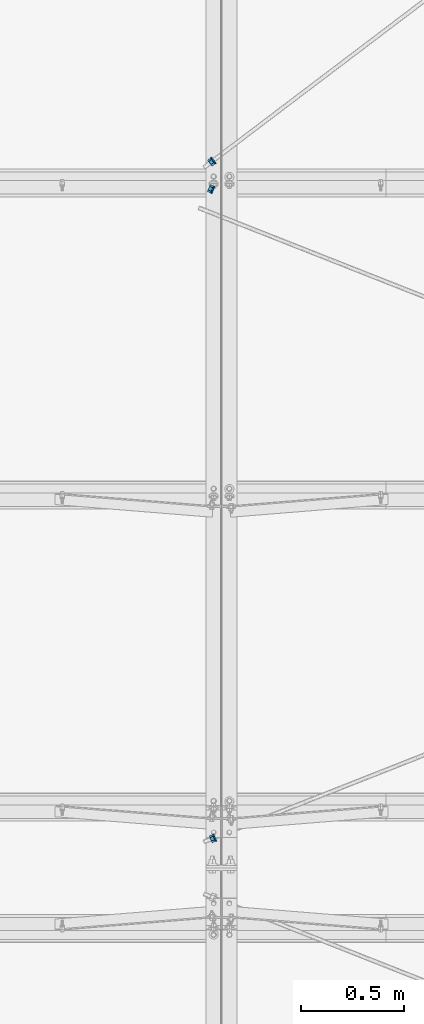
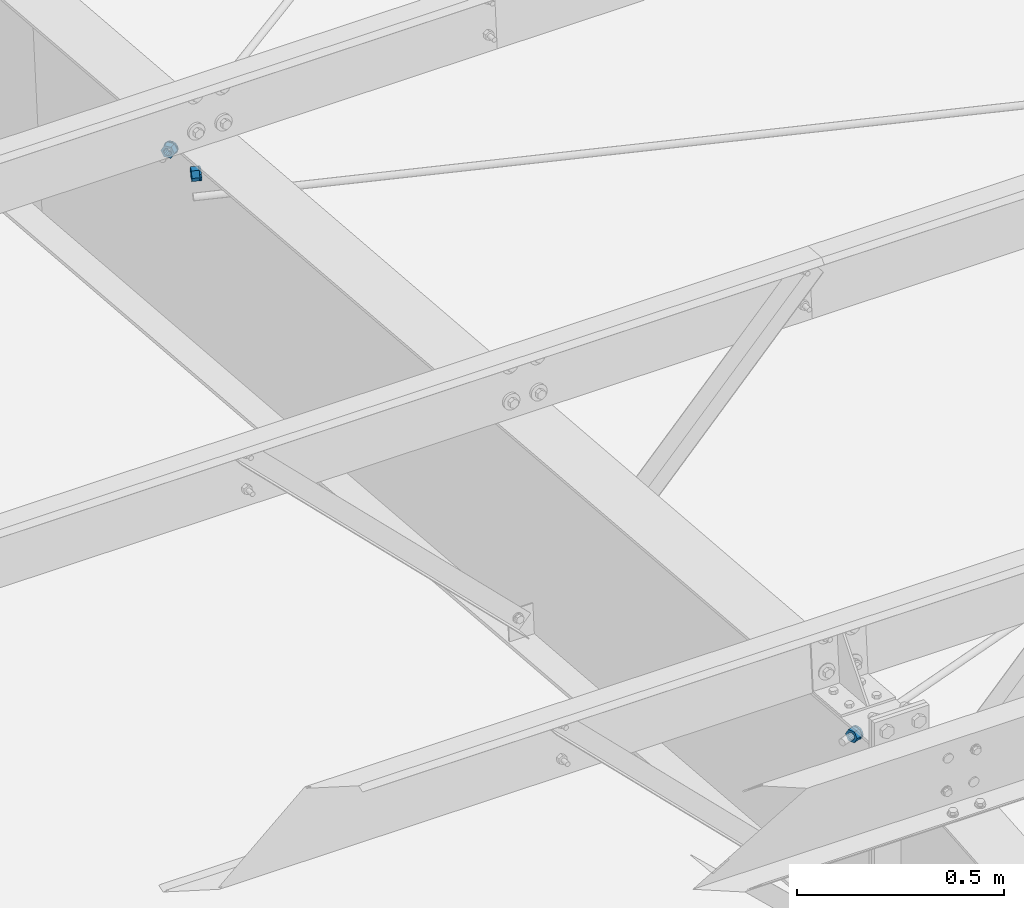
# One storey, part 40 of 185: 6 beams, 6 elements without a shape of their own.
"""IFC2X3 building model written with IfcOpenShell, lengths in millimetres."""

from ifc_helpers import new_model, si_unit, frame, origin_with_axes, place, context, subcontext, project, spatial, polyline, outline, extrude, material, type_object, element, aggregate, save


model = new_model("IFC2X3")

# Units and contexts
model_context = context("Model", 3, precision=1e-05, world=origin_with_axes())
body_context = subcontext(model_context, "Body", "Model", "MODEL_VIEW")
ifc_project = project(units=[si_unit("LENGTHUNIT", "METRE", prefix="MILLI"), si_unit("AREAUNIT", "SQUARE_METRE"), si_unit("VOLUMEUNIT", "CUBIC_METRE"), si_unit("MASSUNIT", "GRAM", prefix="KILO"), si_unit("TIMEUNIT", "SECOND"), si_unit("PLANEANGLEUNIT", "RADIAN"), si_unit("SOLIDANGLEUNIT", "STERADIAN"), si_unit("THERMODYNAMICTEMPERATUREUNIT", "DEGREE_CELSIUS"), si_unit("LUMINOUSINTENSITYUNIT", "LUMEN")], contexts=[model_context])

# Site, building, storey
site_placement = place(None, origin_with_axes())
site = spatial("IfcSite", under=ifc_project, at=site_placement, Name="Undefined", CompositionType="ELEMENT")
building_placement = place(site_placement, origin_with_axes())
building = spatial("IfcBuilding", under=site, at=building_placement, Name="Undefined", CompositionType="ELEMENT")
storey_placement = place(building_placement, origin_with_axes())
storey = spatial("IfcBuildingStorey", under=building, at=storey_placement, Name="Undefined", CompositionType="ELEMENT", Elevation=0.0)

# Assembly, beam
assembly_1_placement = place(storey_placement, origin_with_axes())
assembly_1 = element("IfcElementAssembly", 1, at=assembly_1_placement, inside=storey, Name="Steel Assembly", AssemblyPlace="NOTDEFINED", PredefinedType="RIGID_FRAME")
ifc_material = material(Name="STEEL/55")
beam_type_1 = type_object("IfcBeamType", Name="3/4_HEAVY_HEX_NUT", PredefinedType="NOTDEFINED")
beam_1_placement = place(assembly_1_placement, frame((30054.9248664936, 19301.4769855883, 6891.68541322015), z_axis=(0.0293344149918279, -0.0113831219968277, -0.999504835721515), x_axis=(-0.925462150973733, 0.377531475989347, -0.0314609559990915)))
beam_1 = element("IfcBeam", 2, at=beam_1_placement, type_object=beam_type_1, material=ifc_material, Name="3/4 H HEX NUT A563", ObjectType="3/4_HEAVY_HEX_NUT", context=body_context, shape_type="SweptSolid", body=[
    extrude(outline(polyline([(9.13000011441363, -15.810000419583), (-9.13000011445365, -15.810000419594), (-18.2600002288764, 1.54614099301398e-11), (-9.13000011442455, 15.8100004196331), (9.13000011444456, 15.8100004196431), (18.2600002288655, 3.36513039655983e-11), (9.13000011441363, -15.810000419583)]), holes=[polyline([(-8.06850066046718, 6.43441456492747), (-10.061255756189, 2.29641597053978), (-10.0612557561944, -2.29641597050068), (-8.06850066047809, -6.43441456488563), (-4.47768005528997, -9.29799844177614), (-1.09139364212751e-11, -10.3199996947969), (4.47768005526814, -9.29799844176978), (8.0685006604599, -6.43441456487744), (10.0612557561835, -2.29641597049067), (10.0612557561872, 2.2964159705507), (8.06850066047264, 6.43441456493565), (4.47768005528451, 9.29799844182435), (7.27595761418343e-12, 10.319999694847), (-4.47768005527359, 9.2979984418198), (-8.06850066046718, 6.43441456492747)])]), frame((19.0500000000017, 0.0, 2.58175642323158e-19), z_axis=(-1.0, 0.0, 0.0), x_axis=(0.0, -1.0, 0.0)), (0.0, 0.0, 1.0), 19.1),
])
aggregate(assembly_1, [beam_1])

assembly_2_placement = place(storey_placement, origin_with_axes())
assembly_2 = element("IfcElementAssembly", 3, at=assembly_2_placement, inside=storey, Name="Steel Assembly", AssemblyPlace="NOTDEFINED", PredefinedType="RIGID_FRAME")
beam_2_placement = place(assembly_2_placement, frame((30063.760518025, 16147.9208031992, 7154.4817637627), z_axis=(0.0292554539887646, 0.0118672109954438, 0.999501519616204), x_axis=(-0.924920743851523, -0.378846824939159, 0.0315705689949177)))
beam_2 = element("IfcBeam", 4, at=beam_2_placement, type_object=beam_type_1, material=ifc_material, Name="3/4 H HEX NUT A563", ObjectType="3/4_HEAVY_HEX_NUT", context=body_context, shape_type="SweptSolid", body=[
    extrude(outline(polyline([(9.13000011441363, -15.810000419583), (-9.13000011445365, -15.810000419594), (-18.2600002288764, 1.54614099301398e-11), (-9.13000011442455, 15.8100004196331), (9.13000011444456, 15.8100004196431), (18.2600002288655, 3.36513039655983e-11), (9.13000011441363, -15.810000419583)]), holes=[polyline([(-8.06850066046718, 6.43441456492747), (-10.061255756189, 2.29641597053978), (-10.0612557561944, -2.29641597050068), (-8.06850066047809, -6.43441456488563), (-4.47768005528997, -9.29799844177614), (-1.09139364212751e-11, -10.3199996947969), (4.47768005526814, -9.29799844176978), (8.0685006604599, -6.43441456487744), (10.0612557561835, -2.29641597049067), (10.0612557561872, 2.2964159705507), (8.06850066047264, 6.43441456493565), (4.47768005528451, 9.29799844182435), (7.27595761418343e-12, 10.319999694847), (-4.47768005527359, 9.2979984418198), (-8.06850066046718, 6.43441456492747)])]), frame((19.0500000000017, 0.0, 2.58175642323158e-19), z_axis=(-1.0, 0.0, 0.0), x_axis=(0.0, -1.0, 0.0)), (0.0, 0.0, 1.0), 19.0),
])
aggregate(assembly_2, [beam_2])

assembly_3_placement = place(storey_placement, origin_with_axes())
assembly_3 = element("IfcElementAssembly", 5, at=assembly_3_placement, inside=storey, Name="Steel Assembly", AssemblyPlace="NOTDEFINED", PredefinedType="RIGID_FRAME")
beam_3_placement = place(assembly_3_placement, frame((30057.2910550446, 19441.7536640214, 6879.99568675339), z_axis=(0.0403834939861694, 0.0299076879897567, 0.998736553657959), x_axis=(-0.796162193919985, -0.602993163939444, 0.0502494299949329)))
beam_3 = element("IfcBeam", 6, at=beam_3_placement, type_object=beam_type_1, material=ifc_material, Name="3/4 H HEX NUT A563", ObjectType="3/4_HEAVY_HEX_NUT", context=body_context, shape_type="SweptSolid", body=[
    extrude(outline(polyline([(9.13000011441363, -15.810000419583), (-9.13000011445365, -15.810000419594), (-18.2600002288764, 1.54614099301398e-11), (-9.13000011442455, 15.8100004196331), (9.13000011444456, 15.8100004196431), (18.2600002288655, 3.36513039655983e-11), (9.13000011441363, -15.810000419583)]), holes=[polyline([(-8.06850066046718, 6.43441456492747), (-10.061255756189, 2.29641597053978), (-10.0612557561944, -2.29641597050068), (-8.06850066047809, -6.43441456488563), (-4.47768005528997, -9.29799844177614), (-1.09139364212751e-11, -10.3199996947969), (4.47768005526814, -9.29799844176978), (8.0685006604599, -6.43441456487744), (10.0612557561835, -2.29641597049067), (10.0612557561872, 2.2964159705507), (8.06850066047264, 6.43441456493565), (4.47768005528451, 9.29799844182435), (7.27595761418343e-12, 10.319999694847), (-4.47768005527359, 9.2979984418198), (-8.06850066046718, 6.43441456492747)])]), frame((19.0500000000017, 0.0, 2.58175642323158e-19), z_axis=(-1.0, 0.0, 0.0), x_axis=(0.0, -1.0, 0.0)), (0.0, 0.0, 1.0), 19.1),
])
aggregate(assembly_3, [beam_3])

assembly_4_placement = place(storey_placement, origin_with_axes())
assembly_4 = element("IfcElementAssembly", 7, at=assembly_4_placement, inside=storey, Name="Steel Assembly", AssemblyPlace="NOTDEFINED", PredefinedType="RIGID_FRAME")
beam_type_2 = type_object("IfcBeamType", Name="3/4_WASHER", PredefinedType="NOTDEFINED")
beam_4_placement = place(assembly_4_placement, frame((30059.3323799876, 19299.678991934, 6891.83524602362), z_axis=(0.0293344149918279, -0.0113831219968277, -0.999504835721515), x_axis=(-0.925462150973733, 0.377531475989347, -0.0314609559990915)))
beam_4 = element("IfcBeam", 8, at=beam_4_placement, type_object=beam_type_2, material=ifc_material, Name="3/4 WASHER F844", ObjectType="3/4_WASHER", context=body_context, shape_type="SweptSolid", body=[
    extrude(outline(polyline([(-11.6280845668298, -14.5811568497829), (-16.8030690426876, -8.09193156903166), (-18.649999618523, -4.54747350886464e-12), (-16.8030690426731, 8.09193156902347), (-11.6280845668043, 14.5811568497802), (-4.15001533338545, 18.1824051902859), (4.15001533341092, 18.1824051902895), (11.628084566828, 14.5811568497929), (16.8030690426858, 8.09193156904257), (18.6499996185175, 1.45519152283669e-11), (16.8030690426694, -8.09193156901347), (11.6280845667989, -14.5811568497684), (4.15001533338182, -18.182405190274), (-4.15001533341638, -18.1824051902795), (-11.6280845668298, -14.5811568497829)]), holes=[polyline([(-8.06850066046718, 6.43441456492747), (-10.061255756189, 2.29641597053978), (-10.0612557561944, -2.29641597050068), (-8.06850066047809, -6.43441456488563), (-4.47768005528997, -9.29799844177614), (-1.09139364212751e-11, -10.3199996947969), (4.47768005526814, -9.29799844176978), (8.0685006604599, -6.43441456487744), (10.0612557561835, -2.29641597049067), (10.0612557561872, 2.2964159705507), (8.06850066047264, 6.43441456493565), (4.47768005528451, 9.29799844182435), (7.27595761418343e-12, 10.319999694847), (-4.47768005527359, 9.2979984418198), (-8.06850066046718, 6.43441456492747)])]), frame((4.76250000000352, 2.6437185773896e-16, 5.6843418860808e-14), z_axis=(-1.0, 0.0, 0.0), x_axis=(0.0, -1.0, 0.0)), (0.0, 0.0, 1.0), 4.8),
])
aggregate(assembly_4, [beam_4])

assembly_5_placement = place(storey_placement, origin_with_axes())
assembly_5 = element("IfcElementAssembly", 9, at=assembly_5_placement, inside=storey, Name="Steel Assembly", AssemblyPlace="NOTDEFINED", PredefinedType="RIGID_FRAME")
beam_5_placement = place(assembly_5_placement, frame((30068.1654530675, 16149.7250612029, 7154.33140892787), z_axis=(0.0292554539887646, 0.0118672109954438, 0.999501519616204), x_axis=(-0.924920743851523, -0.378846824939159, 0.0315705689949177)))
beam_5 = element("IfcBeam", 10, at=beam_5_placement, type_object=beam_type_2, material=ifc_material, Name="3/4 WASHER F844", ObjectType="3/4_WASHER", context=body_context, shape_type="SweptSolid", body=[
    extrude(outline(polyline([(-11.6280845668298, -14.5811568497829), (-16.8030690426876, -8.09193156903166), (-18.649999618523, -4.54747350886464e-12), (-16.8030690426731, 8.09193156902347), (-11.6280845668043, 14.5811568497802), (-4.15001533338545, 18.1824051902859), (4.15001533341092, 18.1824051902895), (11.628084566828, 14.5811568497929), (16.8030690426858, 8.09193156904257), (18.6499996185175, 1.45519152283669e-11), (16.8030690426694, -8.09193156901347), (11.6280845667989, -14.5811568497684), (4.15001533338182, -18.182405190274), (-4.15001533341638, -18.1824051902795), (-11.6280845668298, -14.5811568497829)]), holes=[polyline([(-8.06850066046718, 6.43441456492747), (-10.061255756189, 2.29641597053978), (-10.0612557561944, -2.29641597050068), (-8.06850066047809, -6.43441456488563), (-4.47768005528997, -9.29799844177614), (-1.09139364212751e-11, -10.3199996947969), (4.47768005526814, -9.29799844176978), (8.0685006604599, -6.43441456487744), (10.0612557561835, -2.29641597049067), (10.0612557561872, 2.2964159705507), (8.06850066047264, 6.43441456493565), (4.47768005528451, 9.29799844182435), (7.27595761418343e-12, 10.319999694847), (-4.47768005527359, 9.2979984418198), (-8.06850066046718, 6.43441456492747)])]), frame((4.76250000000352, 2.6437185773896e-16, 5.6843418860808e-14), z_axis=(-1.0, 0.0, 0.0), x_axis=(0.0, -1.0, 0.0)), (0.0, 0.0, 1.0), 4.8),
])
aggregate(assembly_5, [beam_5])

assembly_6_placement = place(storey_placement, origin_with_axes())
assembly_6 = element("IfcElementAssembly", 11, at=assembly_6_placement, inside=storey, Name="Steel Assembly", AssemblyPlace="NOTDEFINED", PredefinedType="RIGID_FRAME")
beam_6_placement = place(assembly_6_placement, frame((30061.0827774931, 19444.6254189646, 6879.75637384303), z_axis=(0.0403834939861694, 0.0299076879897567, 0.998736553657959), x_axis=(-0.796162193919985, -0.602993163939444, 0.0502494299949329)))
beam_6 = element("IfcBeam", 12, at=beam_6_placement, type_object=beam_type_2, material=ifc_material, Name="3/4 WASHER F844", ObjectType="3/4_WASHER", context=body_context, shape_type="SweptSolid", body=[
    extrude(outline(polyline([(-11.6280845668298, -14.5811568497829), (-16.8030690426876, -8.09193156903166), (-18.649999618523, -4.54747350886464e-12), (-16.8030690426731, 8.09193156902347), (-11.6280845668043, 14.5811568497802), (-4.15001533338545, 18.1824051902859), (4.15001533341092, 18.1824051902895), (11.628084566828, 14.5811568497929), (16.8030690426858, 8.09193156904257), (18.6499996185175, 1.45519152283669e-11), (16.8030690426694, -8.09193156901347), (11.6280845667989, -14.5811568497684), (4.15001533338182, -18.182405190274), (-4.15001533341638, -18.1824051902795), (-11.6280845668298, -14.5811568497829)]), holes=[polyline([(-8.06850066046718, 6.43441456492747), (-10.061255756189, 2.29641597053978), (-10.0612557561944, -2.29641597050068), (-8.06850066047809, -6.43441456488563), (-4.47768005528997, -9.29799844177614), (-1.09139364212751e-11, -10.3199996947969), (4.47768005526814, -9.29799844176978), (8.0685006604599, -6.43441456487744), (10.0612557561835, -2.29641597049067), (10.0612557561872, 2.2964159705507), (8.06850066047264, 6.43441456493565), (4.47768005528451, 9.29799844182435), (7.27595761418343e-12, 10.319999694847), (-4.47768005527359, 9.2979984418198), (-8.06850066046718, 6.43441456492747)])]), frame((4.76250000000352, 2.6437185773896e-16, 5.6843418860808e-14), z_axis=(-1.0, 0.0, 0.0), x_axis=(0.0, -1.0, 0.0)), (0.0, 0.0, 1.0), 4.8),
])
aggregate(assembly_6, [beam_6])

save(model, "model.ifc")
